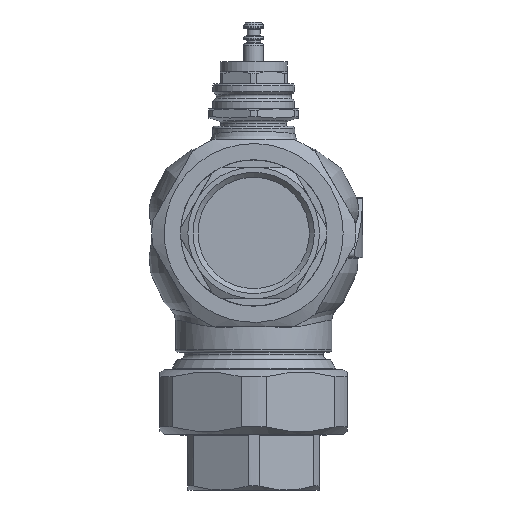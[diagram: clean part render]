
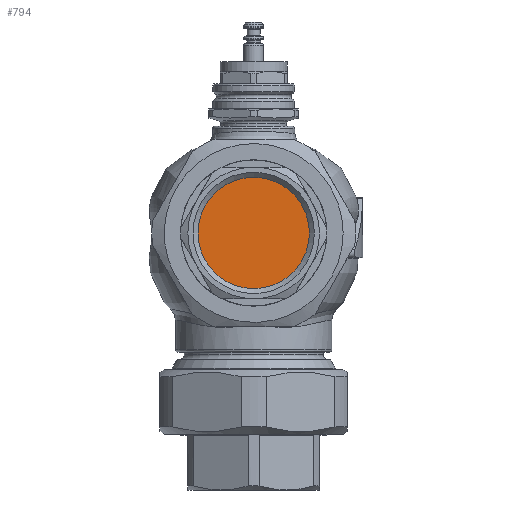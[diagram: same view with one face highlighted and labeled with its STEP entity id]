
A CAD part, left-side view. The second image highlights one B-rep face of the part: STEP entity #794.
In plain terms, the highlighted planar face has unit normal (-1, 0, 0).
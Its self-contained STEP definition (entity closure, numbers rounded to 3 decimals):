
#404=PLANE('',#4213);
#794=ADVANCED_FACE('',(#1112),#404,.T.);
#1112=FACE_OUTER_BOUND('',#1335,.T.);
#1335=EDGE_LOOP('',(#2198));
#1692=CIRCLE('',#4212,30.855);
#2198=ORIENTED_EDGE('',*,*,#3456,.T.);
#3035=VERTEX_POINT('',#10888);
#3456=EDGE_CURVE('',#3035,#3035,#1692,.T.);
#4212=AXIS2_PLACEMENT_3D('',#10887,#4920,#4921);
#4213=AXIS2_PLACEMENT_3D('',#10889,#4922,#4923);
#4920=DIRECTION('',(-1.,0.,0.));
#4921=DIRECTION('',(0.,-1.,0.));
#4922=DIRECTION('',(-1.,0.,0.));
#4923=DIRECTION('',(0.,-1.,0.));
#10887=CARTESIAN_POINT('',(30.,0.,100.));
#10888=CARTESIAN_POINT('',(30.,-30.855,100.));
#10889=CARTESIAN_POINT('',(30.,0.,100.));
